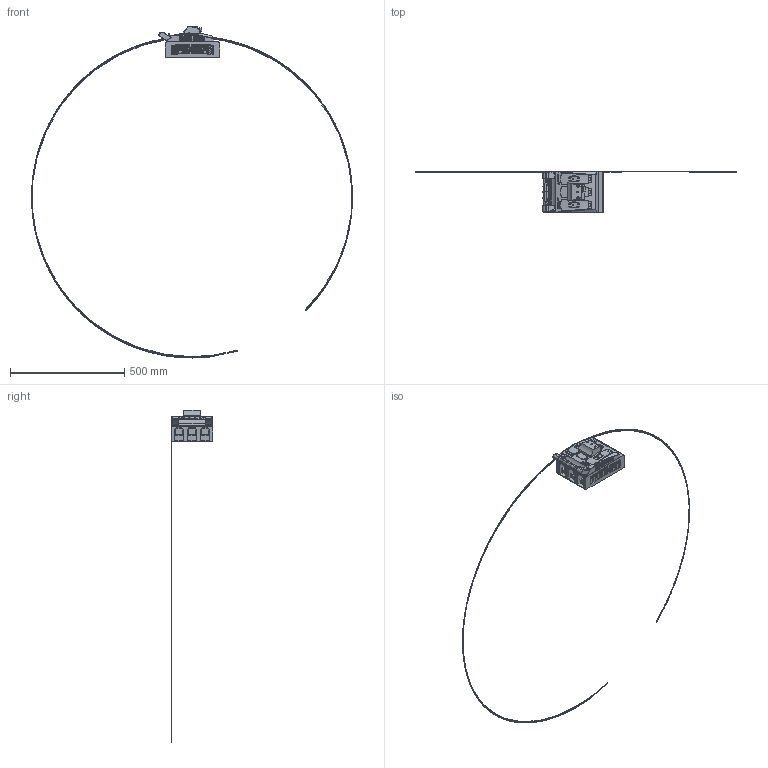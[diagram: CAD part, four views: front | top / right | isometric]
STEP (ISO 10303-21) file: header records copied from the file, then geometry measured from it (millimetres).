
FILE_DESCRIPTION(/* description */ (''),/* implementation_level */ '2;1');
FILE_NAME(/* name */ 'RBK 1 pro-XT - 63-811785-011.stp',/* time_stamp */ '2019-03-07T15:28:47+01:00',/* author */ (''),/* organization */ (''),/* preprocessor_version */ 'ST-DEVELOPER v16',/* originating_system */ 'SIEMENS PLM Software NX 10.0',/* authorisation */ '');
FILE_SCHEMA (('AUTOMOTIVE_DESIGN { 1 0 10303 214 3 1 1 1 }'));
Products named in the file (1): 710_1570FDB6zv5c
Bounding box: 1406.97 x 180 x 1456.04 mm (x, y, z)
Volume: 3831185.4 mm3; surface area: 289715.7 mm2
Topology: 1 solids, 18 shells, 2467 faces, 6500 edges, 4137 vertices
Faces by surface type: plane 1504, cylinder 286, bspline 286, cone 170, torus 88, extrusion 79, sphere 36, revolution 18
Full cylindrical faces by diameter (mm): 4.5 x6, 11 x6
Entity records: 93230 total; most frequent: CARTESIAN_POINT 32584, ORIENTED_EDGE 12798, DIRECTION 12042, EDGE_CURVE 6399, AXIS2_PLACEMENT_3D 4588, VERTEX_POINT 4118, VECTOR 2848, LINE 2769
